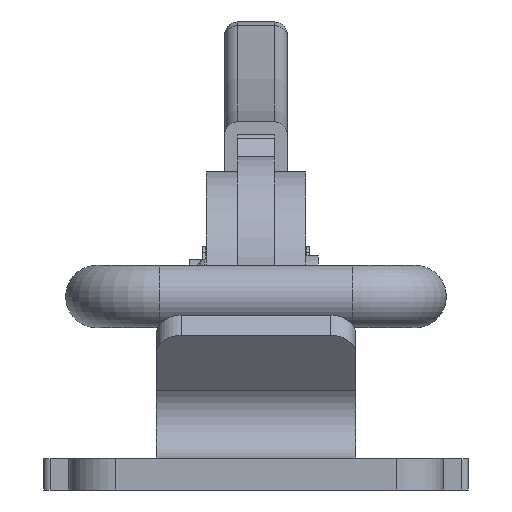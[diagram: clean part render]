
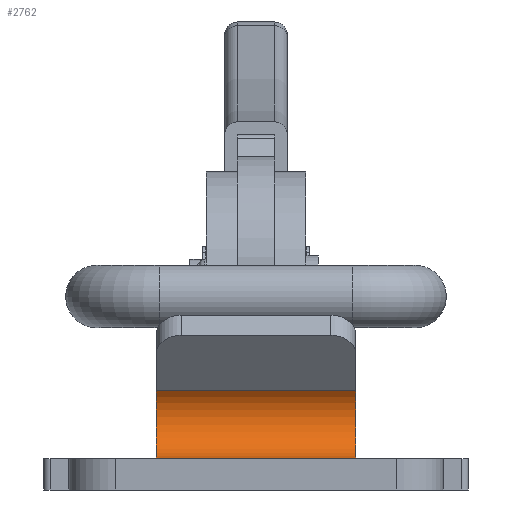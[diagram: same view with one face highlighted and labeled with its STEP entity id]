
A CAD part, left-side view. The second image highlights one B-rep face of the part: STEP entity #2762.
In plain terms, the highlighted cylindrical face has radius 3.321 mm (diameter 6.643 mm), a partial arc.
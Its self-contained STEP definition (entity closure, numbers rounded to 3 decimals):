
#301=FACE_OUTER_BOUND('',#479,.T.);
#479=EDGE_LOOP('',(#1932,#1933,#1934,#1935));
#692=LINE('',#4119,#860);
#711=LINE('',#4194,#879);
#860=VECTOR('',#3283,16.);
#879=VECTOR('',#3364,16.);
#1021=CIRCLE('',#2929,3.321);
#1026=CIRCLE('',#2937,3.321);
#1184=VERTEX_POINT('',#4099);
#1185=VERTEX_POINT('',#4101);
#1192=VERTEX_POINT('',#4117);
#1199=VERTEX_POINT('',#4135);
#1462=EDGE_CURVE('',#1184,#1185,#1021,.T.);
#1471=EDGE_CURVE('',#1192,#1184,#692,.T.);
#1480=EDGE_CURVE('',#1199,#1192,#1026,.T.);
#1507=EDGE_CURVE('',#1199,#1185,#711,.T.);
#1932=ORIENTED_EDGE('',*,*,#1462,.F.);
#1933=ORIENTED_EDGE('',*,*,#1471,.F.);
#1934=ORIENTED_EDGE('',*,*,#1480,.F.);
#1935=ORIENTED_EDGE('',*,*,#1507,.T.);
#2692=CYLINDRICAL_SURFACE('',#2963,3.321);
#2762=ADVANCED_FACE('',(#301),#2692,.F.);
#2929=AXIS2_PLACEMENT_3D('',#4102,#3269,#3270);
#2937=AXIS2_PLACEMENT_3D('',#4137,#3298,#3299);
#2963=AXIS2_PLACEMENT_3D('',#4193,#3362,#3363);
#3269=DIRECTION('center_axis',(0.,0.,-1.));
#3270=DIRECTION('ref_axis',(0.,1.,0.));
#3283=DIRECTION('',(0.,0.,1.));
#3298=DIRECTION('center_axis',(0.,0.,1.));
#3299=DIRECTION('ref_axis',(0.,1.,0.));
#3362=DIRECTION('center_axis',(0.,0.,1.));
#3363=DIRECTION('ref_axis',(0.,1.,0.));
#3364=DIRECTION('',(0.,0.,1.));
#4099=CARTESIAN_POINT('',(22.723,7.956,8.));
#4101=CARTESIAN_POINT('',(20.179,2.5,8.));
#4102=CARTESIAN_POINT('Origin',(20.179,5.821,8.));
#4117=CARTESIAN_POINT('',(22.723,7.956,-8.));
#4119=CARTESIAN_POINT('',(22.723,7.956,0.));
#4135=CARTESIAN_POINT('',(20.179,2.5,-8.));
#4137=CARTESIAN_POINT('Origin',(20.179,5.821,-8.));
#4193=CARTESIAN_POINT('Origin',(20.179,5.821,0.));
#4194=CARTESIAN_POINT('',(20.179,2.5,0.));
